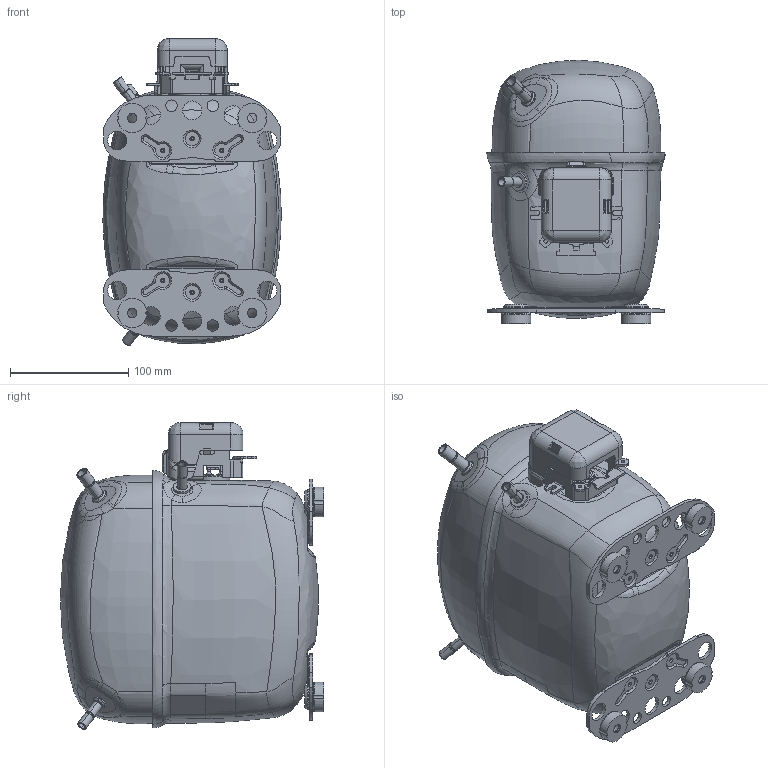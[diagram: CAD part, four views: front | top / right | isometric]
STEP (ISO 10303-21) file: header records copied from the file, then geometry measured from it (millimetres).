
FILE_DESCRIPTION((''),'2;1');
FILE_NAME('104B1276_104B0076_NONE_ASM','2018-11-15T',('CN6198'),(''),'CREO PARAMETRIC BY PTC INC, 2015380','CREO PARAMETRIC BY PTC INC, 2015380','');
FILE_SCHEMA(('CONFIG_CONTROL_DESIGN'));
Products named in the file (25): 104B1404_DES; 104B0321; 104B0504; 60-35175_1; 12-60705_GLASS_1; 12-60705_GLASS-OA0_1; 12-60705_GLASS-OA1_1; 50-41378_1; 60-41459_1; ASSEM1_1_ASM; 117-3629_ASM; 103N0510; 104B0673; 104B0674; 104B0635; 104B0676_BENT; 104B0688_BENT_ASM; 104B1276_ASM; 104B0601; 104B0683; 104B0681; 104B0076_ASM; 103N2008; 118-3661; 104B1276_104B0076_NONE_ASM
Assembly tree (30 placements, depth 5):
  104B1276_104B0076_NONE_ASM
    104B1276_ASM
      104B1404_DES
      104B0321  x2
      104B0504
      117-3629_ASM
        ASSEM1_1_ASM
          60-35175_1  x3
          12-60705_GLASS_1
          12-60705_GLASS-OA0_1
          12-60705_GLASS-OA1_1
          50-41378_1
          60-41459_1
      103N0510
      104B0688_BENT_ASM
        104B0673
        104B0674
        104B0635
        104B0676_BENT
    104B0076_ASM
      104B0601
      104B0683
      104B0681
    103N2008
    118-3661  x4
Bounding box: 150.83 x 222.82 x 259.58 mm (x, y, z)
Volume: 539291.5 mm3; surface area: 386813.3 mm2
Topology: 25 solids, 25 shells, 1886 faces, 4825 edges, 2998 vertices
Faces by surface type: plane 527, bspline 465, cylinder 428, torus 218, cone 185, sphere 38, extrusion 13, revolution 12
Entity records: 136544 total; most frequent: CARTESIAN_POINT 98627, ORIENTED_EDGE 8518, DIRECTION 6779, EDGE_CURVE 4259, VERTEX_POINT 2673, AXIS2_PLACEMENT_3D 2552, EDGE_LOOP 1756, VECTOR 1663
